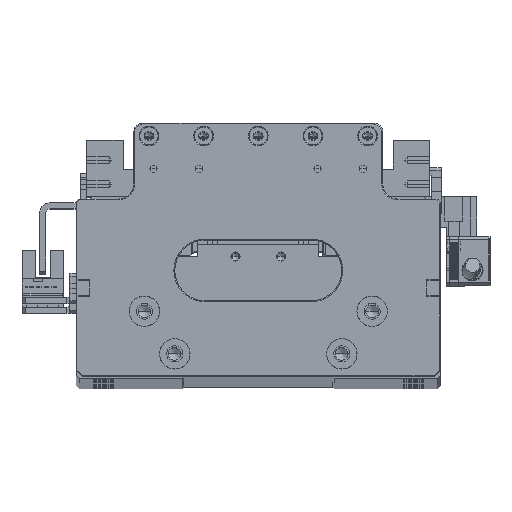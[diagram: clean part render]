
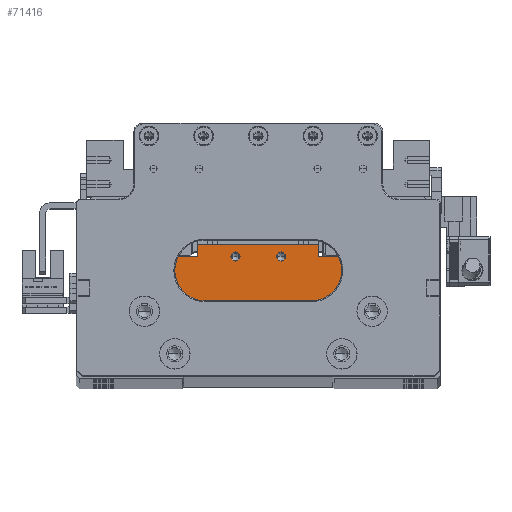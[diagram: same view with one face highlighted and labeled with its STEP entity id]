
A CAD part, top view. The second image highlights one B-rep face of the part: STEP entity #71416.
In plain terms, the highlighted planar face has unit normal (0, 0, 1).
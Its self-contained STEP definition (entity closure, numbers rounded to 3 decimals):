
#150 = ORIENTED_EDGE ( 'NONE', *, *, #53174, .F. ) ;
#2297 = LINE ( 'NONE', #56008, #51571 ) ;
#2913 = FACE_BOUND ( 'NONE', #52348, .T. ) ;
#4229 = DIRECTION ( 'NONE',  ( 0., 1., 0. ) ) ;
#4955 = DIRECTION ( 'NONE',  ( 1., 0., 0. ) ) ;
#5143 = LINE ( 'NONE', #5764, #54425 ) ;
#5764 = CARTESIAN_POINT ( 'NONE',  ( -7.5, 29.7, 83.854 ) ) ;
#8555 = DIRECTION ( 'NONE',  ( 1., 0., 0. ) ) ;
#9711 = EDGE_CURVE ( 'NONE', #93268, #122367, #91023, .T. ) ;
#11268 = CARTESIAN_POINT ( 'NONE',  ( -20., 29.7, 83.854 ) ) ;
#11663 = DIRECTION ( 'NONE',  ( 0., 0., -1. ) ) ;
#13203 = CARTESIAN_POINT ( 'NONE',  ( 20., 29.7, 83.854 ) ) ;
#14758 = ORIENTED_EDGE ( 'NONE', *, *, #9711, .F. ) ;
#14949 = CIRCLE ( 'NONE', #96796, 1.525 ) ;
#19590 = ORIENTED_EDGE ( 'NONE', *, *, #98386, .F. ) ;
#20708 = ORIENTED_EDGE ( 'NONE', *, *, #87547, .F. ) ;
#24023 = CARTESIAN_POINT ( 'NONE',  ( -29.9, 18.2, 83.854 ) ) ;
#24940 = EDGE_CURVE ( 'NONE', #44800, #55409, #14949, .T. ) ;
#25196 = VECTOR ( 'NONE', #75669, 1000. ) ;
#27244 = CARTESIAN_POINT ( 'NONE',  ( -20., 25.7, 83.854 ) ) ;
#27436 = EDGE_CURVE ( 'NONE', #49600, #126110, #77687, .T. ) ;
#27894 = EDGE_LOOP ( 'NONE', ( #122140, #20708, #123195, #51092, #115651, #150, #106225, #14758 ) ) ;
#31567 = CARTESIAN_POINT ( 'NONE',  ( 9.025, 25.8, 83.854 ) ) ;
#32634 = CARTESIAN_POINT ( 'NONE',  ( -7.5, 25.7, 83.854 ) ) ;
#34999 = DIRECTION ( 'NONE',  ( 1., 0., 0. ) ) ;
#35637 = DIRECTION ( 'NONE',  ( 0., 0., 1. ) ) ;
#36059 = EDGE_CURVE ( 'NONE', #55409, #44800, #92047, .T. ) ;
#38607 = VECTOR ( 'NONE', #50699, 1000. ) ;
#38993 = ORIENTED_EDGE ( 'NONE', *, *, #36059, .F. ) ;
#43501 = CARTESIAN_POINT ( 'NONE',  ( -7.5, 6.5, 83.854 ) ) ;
#44800 = VERTEX_POINT ( 'NONE', #87604 ) ;
#46258 = VECTOR ( 'NONE', #92138, 1000. ) ;
#47879 = VERTEX_POINT ( 'NONE', #13203 ) ;
#49078 = EDGE_CURVE ( 'NONE', #113399, #49600, #98743, .T. ) ;
#49600 = VERTEX_POINT ( 'NONE', #66100 ) ;
#50699 = DIRECTION ( 'NONE',  ( 0., 1., 0. ) ) ;
#51092 = ORIENTED_EDGE ( 'NONE', *, *, #27436, .F. ) ;
#51571 = VECTOR ( 'NONE', #75035, 1000. ) ;
#52348 = EDGE_LOOP ( 'NONE', ( #38993, #104459 ) ) ;
#53174 = EDGE_CURVE ( 'NONE', #47879, #113399, #104098, .T. ) ;
#54425 = VECTOR ( 'NONE', #34999, 1000. ) ;
#55409 = VERTEX_POINT ( 'NONE', #31567 ) ;
#56008 = CARTESIAN_POINT ( 'NONE',  ( -7.5, 25.7, 83.854 ) ) ;
#57502 = CARTESIAN_POINT ( 'NONE',  ( 7.5, 25.8, 83.854 ) ) ;
#58104 = VERTEX_POINT ( 'NONE', #118288 ) ;
#60709 = PLANE ( 'NONE',  #124325 ) ;
#62585 = CARTESIAN_POINT ( 'NONE',  ( 29.9, 6.5, 83.854 ) ) ;
#63069 = ORIENTED_EDGE ( 'NONE', *, *, #105814, .F. ) ;
#63966 = DIRECTION ( 'NONE',  ( 0., 0., 1. ) ) ;
#66100 = CARTESIAN_POINT ( 'NONE',  ( 29.9, 25.7, 83.854 ) ) ;
#67479 = DIRECTION ( 'NONE',  ( 1., 0., 0. ) ) ;
#67587 = DIRECTION ( 'NONE',  ( 0., 0., 1. ) ) ;
#67704 = AXIS2_PLACEMENT_3D ( 'NONE', #126682, #67587, #8555 ) ;
#71416 = ADVANCED_FACE ( 'NONE', ( #124749, #2913, #72261 ), #60709, .F. ) ;
#72065 = EDGE_LOOP ( 'NONE', ( #63069, #19590 ) ) ;
#72261 = FACE_BOUND ( 'NONE', #72065, .T. ) ;
#74298 = EDGE_CURVE ( 'NONE', #97347, #93268, #2297, .T. ) ;
#75035 = DIRECTION ( 'NONE',  ( 1., 0., 0. ) ) ;
#75669 = DIRECTION ( 'NONE',  ( 0., -1., 0. ) ) ;
#76494 = EDGE_CURVE ( 'NONE', #122367, #47879, #5143, .T. ) ;
#77687 = LINE ( 'NONE', #95053, #25196 ) ;
#77891 = VECTOR ( 'NONE', #83398, 1000. ) ;
#80582 = DIRECTION ( 'NONE',  ( -1., 0., 0. ) ) ;
#81122 = CIRCLE ( 'NONE', #94319, 1.525 ) ;
#83398 = DIRECTION ( 'NONE',  ( 0., -1., 0. ) ) ;
#85190 = AXIS2_PLACEMENT_3D ( 'NONE', #123065, #63966, #4955 ) ;
#87547 = EDGE_CURVE ( 'NONE', #123958, #97347, #103885, .T. ) ;
#87604 = CARTESIAN_POINT ( 'NONE',  ( 5.975, 25.8, 83.854 ) ) ;
#90052 = CARTESIAN_POINT ( 'NONE',  ( -7.5, 18.2, 83.854 ) ) ;
#90368 = CARTESIAN_POINT ( 'NONE',  ( -29.9, 6.5, 83.854 ) ) ;
#91023 = LINE ( 'NONE', #109787, #38607 ) ;
#91416 = LINE ( 'NONE', #43501, #117694 ) ;
#92047 = CIRCLE ( 'NONE', #85190, 1.525 ) ;
#92138 = DIRECTION ( 'NONE',  ( 1., 0., 0. ) ) ;
#93268 = VERTEX_POINT ( 'NONE', #27244 ) ;
#94319 = AXIS2_PLACEMENT_3D ( 'NONE', #94716, #35637, #104691 ) ;
#94716 = CARTESIAN_POINT ( 'NONE',  ( -7.5, 25.8, 83.854 ) ) ;
#95053 = CARTESIAN_POINT ( 'NONE',  ( 29.9, 18.2, 83.854 ) ) ;
#95160 = CARTESIAN_POINT ( 'NONE',  ( 20., 18.2, 83.854 ) ) ;
#96796 = AXIS2_PLACEMENT_3D ( 'NONE', #57502, #126575, #67479 ) ;
#97347 = VERTEX_POINT ( 'NONE', #115148 ) ;
#97697 = VECTOR ( 'NONE', #4229, 1000. ) ;
#98386 = EDGE_CURVE ( 'NONE', #58104, #110946, #117116, .T. ) ;
#98743 = LINE ( 'NONE', #32634, #46258 ) ;
#100359 = CARTESIAN_POINT ( 'NONE',  ( -5.975, 25.8, 83.854 ) ) ;
#103885 = LINE ( 'NONE', #24023, #97697 ) ;
#104098 = LINE ( 'NONE', #95160, #77891 ) ;
#104459 = ORIENTED_EDGE ( 'NONE', *, *, #24940, .F. ) ;
#104691 = DIRECTION ( 'NONE',  ( 1., 0., 0. ) ) ;
#105814 = EDGE_CURVE ( 'NONE', #110946, #58104, #81122, .T. ) ;
#106225 = ORIENTED_EDGE ( 'NONE', *, *, #76494, .F. ) ;
#109001 = EDGE_CURVE ( 'NONE', #123958, #126110, #91416, .T. ) ;
#109787 = CARTESIAN_POINT ( 'NONE',  ( -20., 18.2, 83.854 ) ) ;
#110946 = VERTEX_POINT ( 'NONE', #100359 ) ;
#113399 = VERTEX_POINT ( 'NONE', #123787 ) ;
#115148 = CARTESIAN_POINT ( 'NONE',  ( -29.9, 25.7, 83.854 ) ) ;
#115651 = ORIENTED_EDGE ( 'NONE', *, *, #49078, .F. ) ;
#117116 = CIRCLE ( 'NONE', #67704, 1.525 ) ;
#117694 = VECTOR ( 'NONE', #122012, 1000. ) ;
#118288 = CARTESIAN_POINT ( 'NONE',  ( -9.025, 25.8, 83.854 ) ) ;
#122012 = DIRECTION ( 'NONE',  ( 1., 0., 0. ) ) ;
#122140 = ORIENTED_EDGE ( 'NONE', *, *, #74298, .F. ) ;
#122367 = VERTEX_POINT ( 'NONE', #11268 ) ;
#123065 = CARTESIAN_POINT ( 'NONE',  ( 7.5, 25.8, 83.854 ) ) ;
#123195 = ORIENTED_EDGE ( 'NONE', *, *, #109001, .T. ) ;
#123787 = CARTESIAN_POINT ( 'NONE',  ( 20., 25.7, 83.854 ) ) ;
#123958 = VERTEX_POINT ( 'NONE', #90368 ) ;
#124325 = AXIS2_PLACEMENT_3D ( 'NONE', #90052, #11663, #80582 ) ;
#124749 = FACE_OUTER_BOUND ( 'NONE', #27894, .T. ) ;
#126110 = VERTEX_POINT ( 'NONE', #62585 ) ;
#126575 = DIRECTION ( 'NONE',  ( 0., 0., 1. ) ) ;
#126682 = CARTESIAN_POINT ( 'NONE',  ( -7.5, 25.8, 83.854 ) ) ;
